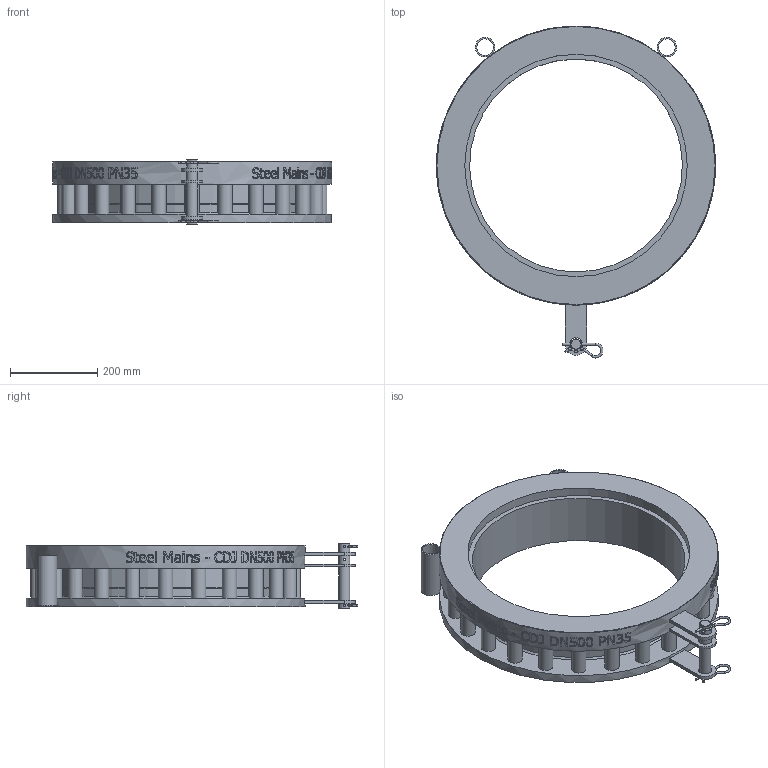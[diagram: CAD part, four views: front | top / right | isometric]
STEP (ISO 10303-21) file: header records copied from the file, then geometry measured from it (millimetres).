
FILE_DESCRIPTION(/* description */ (''),/* implementation_level */ '2;1');
FILE_NAME(/* name */ 'C:\Vault\Designs\Somerton\196\196-37 Models\Marketing Files\SteelMains - CDJ DN500 PN35 - (196-37T rev B).stp',/* time_stamp */ '2025-09-29T10:49:02+10:00',/* author */ ('Sam.Cavallaro'),/* organization */ (''),/* preprocessor_version */ 'ST-DEVELOPER v18.1',/* originating_system */ 'Autodesk Inventor 2021',/* authorisation */ '');
FILE_SCHEMA (('AUTOMOTIVE_DESIGN { 1 0 10303 214 3 1 1 }'));
Length unit declared in the file: millimetre
Products named in the file (1): SPS_ENG-084831
Bounding box: 640 x 761.22 x 151 mm (x, y, z)
Volume: 11890534.8 mm3; surface area: 1222345.3 mm2
Topology: 6 solids, 6 shells, 853 faces, 2325 edges, 1551 vertices
Faces by surface type: bspline 414, plane 307, cylinder 119, torus 8, cone 5
Full cylindrical faces by diameter (mm): 4.8 x10, 6 x3, 25 x1, 30 x3, 33 x24, 38.1 x2, 44.5 x2, 488 x1, 504 x1, 508 x1, 510 x1, 640 x1
Entity records: 37908 total; most frequent: CARTESIAN_POINT 18420, ORIENTED_EDGE 4656, DIRECTION 2776, EDGE_CURVE 2328, VERTEX_POINT 1554, LINE 1068, VECTOR 1068, EDGE_LOOP 986
